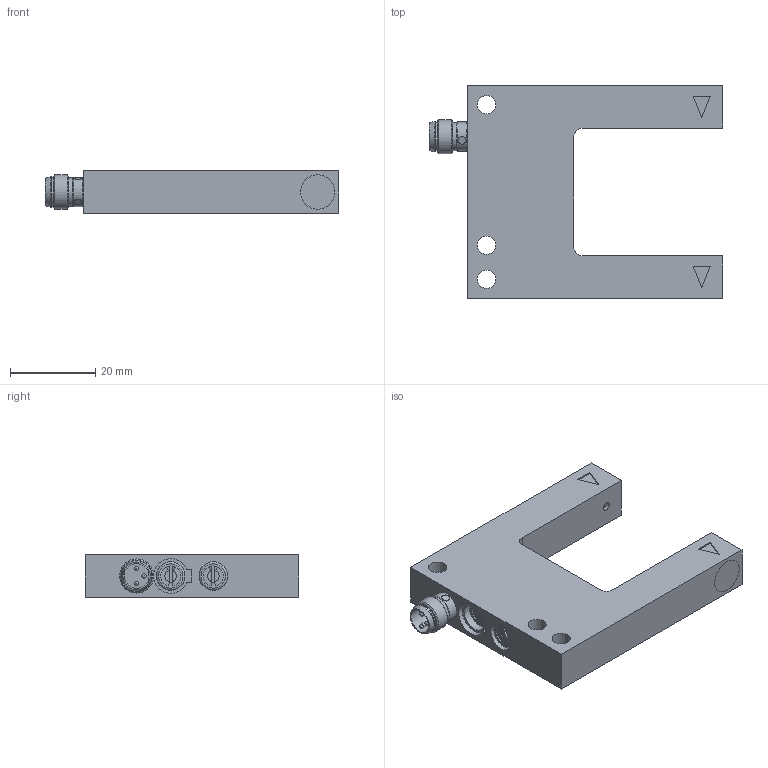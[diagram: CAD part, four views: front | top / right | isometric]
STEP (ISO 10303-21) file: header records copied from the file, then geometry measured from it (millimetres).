
FILE_DESCRIPTION( ( 'Unknown' ), '1' );
FILE_NAME( 'X:/SolidEdge/Models/Dokumentationen/Opto/di-soric/Vereinfachte Modelle/Neutralformate/OG030U.x-xxxx.7xL.stp', 'Unknown', ( 'Unknown' ), ( 'Unknown' ), 'PSStep 19.0.9', 'Unknown', ' ' );
FILE_SCHEMA( ( 'AUTOMOTIVE_DESIGN { 1 0 10303 214 1 1 1 1 }' ) );
Length unit declared in the file: millimetre
Products named in the file (1): OGU 03x RNA
Bounding box: 69 x 50 x 10 mm (x, y, z)
Volume: 19133.4 mm3; surface area: 7944.3 mm2
Topology: 1 solids, 1 shells, 119 faces, 261 edges, 173 vertices
Faces by surface type: plane 61, cylinder 48, cone 5, sphere 3, torus 2
Full cylindrical faces by diameter (mm): 1 x3, 2 x2, 4.3 x3, 5 x2, 5.8 x1, 6.4 x1, 6.6 x2, 6.7 x4, 6.9 x1, 7.2 x1, 8 x1, 8.1 x4
Entity records: 4040 total; most frequent: CARTESIAN_POINT 587, DIRECTION 534, ORIENTED_EDGE 420, AXIS2_PLACEMENT_3D 212, EDGE_CURVE 210, EDGE_LOOP 190, VERTEX_POINT 161, FACE_OUTER_BOUND 146
